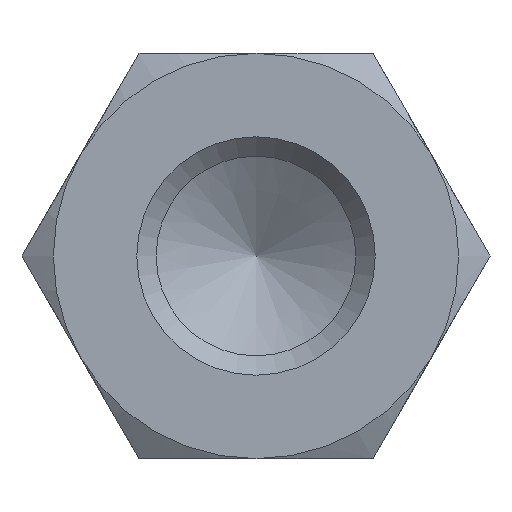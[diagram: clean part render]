
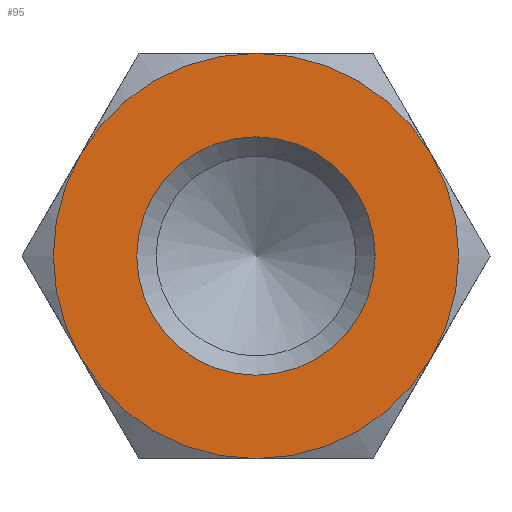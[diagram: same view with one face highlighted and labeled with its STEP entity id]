
A CAD part, left-side view. The second image highlights one B-rep face of the part: STEP entity #95.
In plain terms, the highlighted planar face has unit normal (-1, 0, 0).
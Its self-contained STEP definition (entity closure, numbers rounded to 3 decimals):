
#95 = ADVANCED_FACE( '', ( #147, #148 ), #149, .F. );
#147 = FACE_OUTER_BOUND( '', #206, .T. );
#148 = FACE_BOUND( '', #207, .T. );
#149 = PLANE( '', #208 );
#206 = EDGE_LOOP( '', ( #356, #357, #358, #359, #360, #361 ) );
#207 = EDGE_LOOP( '', ( #362 ) );
#208 = AXIS2_PLACEMENT_3D( '', #363, #364, #365 );
#356 = ORIENTED_EDGE( '', *, *, #440, .F. );
#357 = ORIENTED_EDGE( '', *, *, #425, .F. );
#358 = ORIENTED_EDGE( '', *, *, #441, .F. );
#359 = ORIENTED_EDGE( '', *, *, #437, .F. );
#360 = ORIENTED_EDGE( '', *, *, #442, .F. );
#361 = ORIENTED_EDGE( '', *, *, #443, .F. );
#362 = ORIENTED_EDGE( '', *, *, #439, .T. );
#363 = CARTESIAN_POINT( '', ( -45., 0., 0. ) );
#364 = DIRECTION( '', ( 1., 0., 0. ) );
#365 = DIRECTION( '', ( 0., 0., -1. ) );
#425 = EDGE_CURVE( '', #495, #493, #497, .T. );
#437 = EDGE_CURVE( '', #447, #506, #513, .T. );
#439 = EDGE_CURVE( '', #516, #516, #517, .T. );
#440 = EDGE_CURVE( '', #493, #486, #518, .T. );
#441 = EDGE_CURVE( '', #506, #495, #519, .T. );
#442 = EDGE_CURVE( '', #481, #447, #520, .T. );
#443 = EDGE_CURVE( '', #486, #481, #521, .T. );
#447 = VERTEX_POINT( '', #525 );
#481 = VERTEX_POINT( '', #607 );
#486 = VERTEX_POINT( '', #623 );
#493 = VERTEX_POINT( '', #650 );
#495 = VERTEX_POINT( '', #657 );
#497 = CIRCLE( '', #664, 8.5 );
#506 = VERTEX_POINT( '', #690 );
#513 = CIRCLE( '', #733, 8.5 );
#516 = VERTEX_POINT( '', #736 );
#517 = CIRCLE( '', #737, 5. );
#518 = CIRCLE( '', #738, 8.5 );
#519 = CIRCLE( '', #739, 8.5 );
#520 = CIRCLE( '', #740, 8.5 );
#521 = CIRCLE( '', #741, 8.5 );
#525 = CARTESIAN_POINT( '', ( -45., -7.361, 4.25 ) );
#607 = CARTESIAN_POINT( '', ( -45., 0., 8.5 ) );
#623 = CARTESIAN_POINT( '', ( -45., 7.361, 4.25 ) );
#650 = CARTESIAN_POINT( '', ( -45., 7.361, -4.25 ) );
#657 = CARTESIAN_POINT( '', ( -45., 0., -8.5 ) );
#664 = AXIS2_PLACEMENT_3D( '', #776, #777, #778 );
#690 = CARTESIAN_POINT( '', ( -45., -7.361, -4.25 ) );
#733 = AXIS2_PLACEMENT_3D( '', #781, #782, #783 );
#736 = CARTESIAN_POINT( '', ( -45., 0., -5. ) );
#737 = AXIS2_PLACEMENT_3D( '', #787, #788, #789 );
#738 = AXIS2_PLACEMENT_3D( '', #790, #791, #792 );
#739 = AXIS2_PLACEMENT_3D( '', #793, #794, #795 );
#740 = AXIS2_PLACEMENT_3D( '', #796, #797, #798 );
#741 = AXIS2_PLACEMENT_3D( '', #799, #800, #801 );
#776 = CARTESIAN_POINT( '', ( -45., 0., 0. ) );
#777 = DIRECTION( '', ( 1., 0., 0. ) );
#778 = DIRECTION( '', ( 0., 0., -1. ) );
#781 = CARTESIAN_POINT( '', ( -45., 0., 0. ) );
#782 = DIRECTION( '', ( 1., 0., 0. ) );
#783 = DIRECTION( '', ( 0., 0., -1. ) );
#787 = CARTESIAN_POINT( '', ( -45., 0., 0. ) );
#788 = DIRECTION( '', ( 1., 0., 0. ) );
#789 = DIRECTION( '', ( 0., 0., -1. ) );
#790 = CARTESIAN_POINT( '', ( -45., 0., 0. ) );
#791 = DIRECTION( '', ( 1., 0., 0. ) );
#792 = DIRECTION( '', ( 0., 0., -1. ) );
#793 = CARTESIAN_POINT( '', ( -45., 0., 0. ) );
#794 = DIRECTION( '', ( 1., 0., 0. ) );
#795 = DIRECTION( '', ( 0., 0., -1. ) );
#796 = CARTESIAN_POINT( '', ( -45., 0., 0. ) );
#797 = DIRECTION( '', ( 1., 0., 0. ) );
#798 = DIRECTION( '', ( 0., 0., -1. ) );
#799 = CARTESIAN_POINT( '', ( -45., 0., 0. ) );
#800 = DIRECTION( '', ( 1., 0., 0. ) );
#801 = DIRECTION( '', ( 0., 0., -1. ) );
